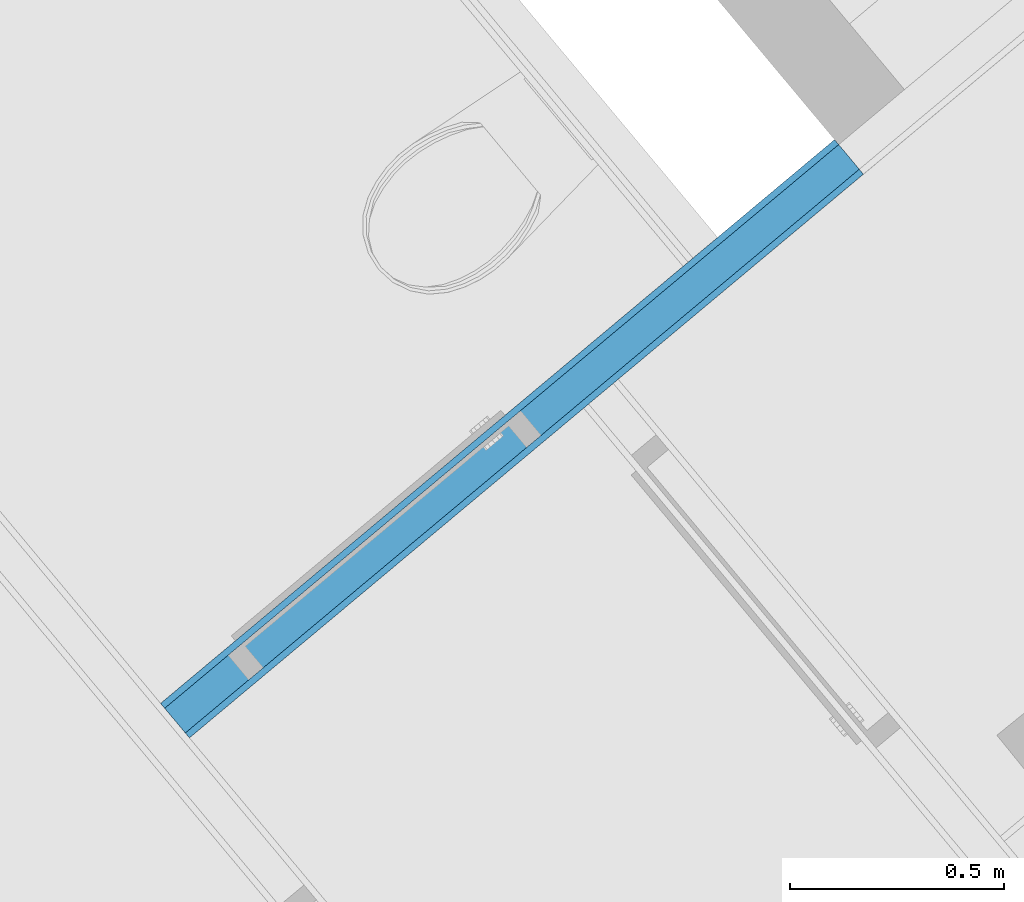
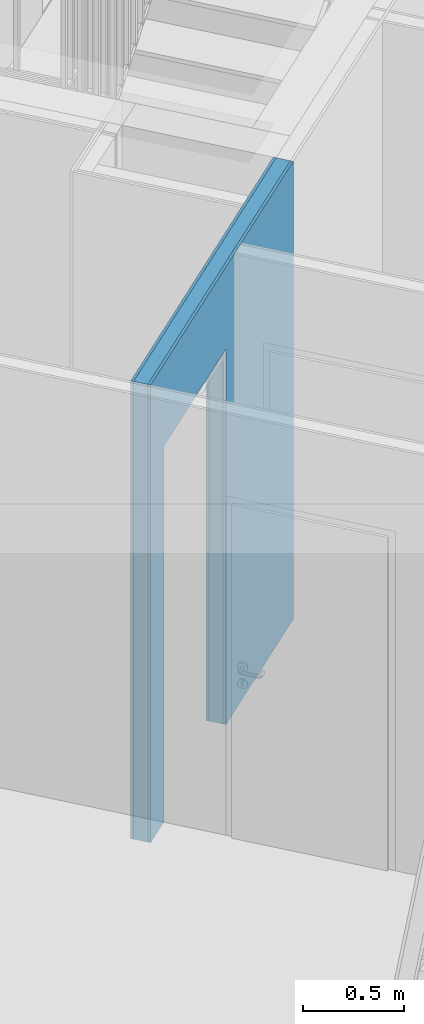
# One storey, part 4 of 50: 3 building element parts, 1 opening, 1 element without a shape of its own.
"""IFC4 building model written with IfcOpenShell, lengths in metres."""

from ifc_helpers import new_model, entity, si_unit, converted_unit, derived_unit, direction, frame, origin_with_axes, place, context, subcontext, project, spatial, polygons, material, type_object, element, aggregate, save


model = new_model("IFC4")

# Units and contexts
model_context = context("Model", 3, precision=1e-05, world=origin_with_axes(), true_north=direction((0.0, 1.0)))
body_context = subcontext(model_context, "Body", "Model", "MODEL_VIEW")
ifc_project = project(units=[si_unit("LENGTHUNIT", "METRE"), si_unit("AREAUNIT", "SQUARE_METRE"), si_unit("VOLUMEUNIT", "CUBIC_METRE"), converted_unit("PLANEANGLEUNIT", "DEGREE", entity("IfcPlaneAngleMeasure", 0.0174532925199), si_unit("PLANEANGLEUNIT", "RADIAN"), dimensions=[0, 0, 0, 0, 0, 0, 0]), converted_unit("TIMEUNIT", "Year", entity("IfcTimeMeasure", 31556926.0), si_unit("TIMEUNIT", "SECOND"), dimensions=[0, 0, 1, 0, 0, 0, 0]), si_unit("MASSUNIT", "GRAM", prefix="KILO"), si_unit("THERMODYNAMICTEMPERATUREUNIT", "DEGREE_CELSIUS"), si_unit("LUMINOUSINTENSITYUNIT", "LUMEN"), si_unit("ENERGYUNIT", "JOULE", prefix="MEGA"), derived_unit("THERMALCONDUCTANCEUNIT", [(si_unit("POWERUNIT", "WATT"), 1), (si_unit("LENGTHUNIT", "METRE"), -1), (si_unit("THERMODYNAMICTEMPERATUREUNIT", "KELVIN"), -1)]), derived_unit("SPECIFICHEATCAPACITYUNIT", [(si_unit("ENERGYUNIT", "JOULE"), 1), (si_unit("MASSUNIT", "GRAM", prefix="KILO"), -1), (si_unit("THERMODYNAMICTEMPERATUREUNIT", "KELVIN"), -1)]), derived_unit("MASSDENSITYUNIT", [(si_unit("MASSUNIT", "GRAM", prefix="KILO"), 1), (si_unit("VOLUMEUNIT", "CUBIC_METRE"), -1)])], contexts=[model_context])

# Site, building, storey
site_placement = place(None, frame((-0.00153261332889, -0.00661245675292, 0.0), z_axis=(0.0, 0.0, 1.0), x_axis=(1.0, 0.0, 0.0)))
site = spatial("IfcSite", under=ifc_project, at=site_placement, Name="Site", CompositionType="ELEMENT")
building_placement = place(site_placement, origin_with_axes())
building = spatial("IfcBuilding", under=site, at=building_placement, Name="Building", CompositionType="ELEMENT")
storey_placement = place(building_placement, frame((0.0, 0.0, 2.74), z_axis=(0.0, 0.0, 1.0), x_axis=(1.0, 0.0, 0.0)))
storey = spatial("IfcBuildingStorey", under=building, at=storey_placement, Name="OG1", CompositionType="ELEMENT", Elevation=2.74)

# Wall, opening, building element parts
wall_type = type_object("IfcWallType", Name="IW LB 01 Leichtbautrennwand einfach 10,5 cm 105", PredefinedType="NOTDEFINED")
wall_placement = place(storey_placement, frame((-3.8779013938, 18.9137265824, 0.0), z_axis=(0.0, 0.0, 1.0), x_axis=(0.767062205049, 0.641572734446, 0.0)))
wall = element("IfcWall", 1, at=wall_placement, inside=storey, type_object=wall_type, Name="Wand-012", PredefinedType="NOTDEFINED")
opening_placement = place(wall_placement, frame((0.742573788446, 0.0, 0.22), z_axis=(0.0, 0.0, 1.0), x_axis=(1.0, 0.0, 0.0)))
element("IfcOpeningElement", 2, at=opening_placement, cuts=wall, Name="Tür-016", context=body_context, identifier="Reference", shape_type="Tessellation", body=[
    polygons([(-0.445, -1.16650854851, 2.045), (-0.445, -1.16650854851, -0.22), (0.445, -1.16650854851, -0.22), (0.445, -1.16650854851, 2.045), (-0.445, 1.06150854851, 2.045), (-0.445, 1.06150854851, -0.22), (0.445, 1.06150854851, -0.22), (0.445, 1.06150854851, 2.045)], [[[1, 2, 3, 4]], [[5, 6, 2, 1]], [[6, 7, 3, 2]], [[7, 8, 4, 3]], [[8, 5, 1, 4]], [[7, 6, 5, 8]]], closed=True),
])
ifc_material_1 = material(Name="Gipskarton")
building_element_part_1_placement = place(wall_placement, origin_with_axes())
building_element_part_1 = element("IfcBuildingElementPart", 3, at=building_element_part_1_placement, material=ifc_material_1, Name="Gipskarton", PredefinedType="NOTDEFINED", context=body_context, shape_type="Tessellation", body=[
    polygons([(0.297573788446, -0.015, 0.22), (0.297573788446, -0.015, 2.265), (1.18757378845, -0.015, 2.265), (1.18757378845, -0.015, 0.22), (1.18757378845, -0.015, 0.0), (2.15495244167, -0.015, 0.0), (2.15495244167, -0.015, 2.76), (0.10499291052, -0.015, 2.76), (0.10499291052, -0.015, 0.0), (0.297573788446, -0.015, 0.0), (0.297573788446, 3.45460549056e-09, 0.22), (0.297573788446, -8.58950244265e-10, 2.265), (1.18757378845, -8.58946691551e-10, 2.265), (1.18757378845, -8.58950244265e-10, 0.22), (1.18757378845, -8.58950244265e-10, 0.0), (2.15495244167, 0.0, 0.0), (2.15495244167, 0.0, 2.76), (0.105000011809, 0.0, 2.76), (0.105000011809, 0.0, 0.0), (0.297573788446, 3.45460549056e-09, 0.0)], [[[1, 2, 3, 4, 5, 6, 7, 8, 9, 10]], [[2, 1, 11, 12]], [[3, 2, 12, 13]], [[4, 3, 13, 14]], [[4, 14, 15, 5]], [[15, 16, 6, 5]], [[7, 6, 16, 17]], [[7, 17, 18, 8]], [[8, 18, 19, 9]], [[10, 9, 19, 20]], [[11, 1, 10, 20]], [[12, 11, 20, 19, 18, 17, 16, 15, 14, 13]]], closed=True),
])
ifc_material_2 = material(Name="Mineralwolle weich")
building_element_part_2_placement = place(wall_placement, origin_with_axes())
building_element_part_2 = element("IfcBuildingElementPart", 4, at=building_element_part_2_placement, material=ifc_material_2, Name="Mineralwolle weich", PredefinedType="NOTDEFINED", context=body_context, shape_type="Tessellation", body=[
    polygons([(0.297573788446, -0.09, 0.22), (0.297573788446, -0.09, 2.265), (1.18757378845, -0.09, 2.265), (1.18757378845, -0.09, 0.22), (1.18757378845, -0.09, 0.0), (2.15495244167, -0.09, 0.0), (2.15495244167, -0.09, 2.76), (0.104957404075, -0.09, 2.76), (0.104957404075, -0.09, 0.0), (0.297573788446, -0.09, 0.0), (0.297573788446, -0.015, 0.22), (0.297573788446, -0.015, 2.265), (1.18757378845, -0.015, 2.265), (1.18757378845, -0.015, 0.22), (1.18757378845, -0.015, 0.0), (2.15495244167, -0.015, 0.0), (2.15495244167, -0.015, 2.76), (0.10499291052, -0.015, 2.76), (0.10499291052, -0.015, 0.0), (0.297573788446, -0.015, 0.0)], [[[1, 2, 3, 4, 5, 6, 7, 8, 9, 10]], [[2, 1, 11, 12]], [[3, 2, 12, 13]], [[4, 3, 13, 14]], [[4, 14, 15, 5]], [[15, 16, 6, 5]], [[7, 6, 16, 17]], [[7, 17, 18, 8]], [[8, 18, 19, 9]], [[10, 9, 19, 20]], [[11, 1, 10, 20]], [[12, 11, 20, 19, 18, 17, 16, 15, 14, 13]]], closed=True),
])
building_element_part_3_placement = place(wall_placement, origin_with_axes())
building_element_part_3 = element("IfcBuildingElementPart", 5, at=building_element_part_3_placement, material=ifc_material_1, Name="Gipskarton", PredefinedType="NOTDEFINED", context=body_context, shape_type="Tessellation", body=[
    polygons([(0.297573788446, -0.105, 0.22), (0.297573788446, -0.105, 2.265), (1.18757378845, -0.105, 2.265), (1.18757378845, -0.105, 0.22), (1.18757378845, -0.105, 0.0), (2.15495244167, -0.105, 0.0), (2.15495244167, -0.105, 2.76), (0.104950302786, -0.105, 2.76), (0.104950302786, -0.105, 0.0), (0.297573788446, -0.105, 0.0), (0.297573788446, -0.09, 0.22), (0.297573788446, -0.09, 2.265), (1.18757378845, -0.09, 2.265), (1.18757378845, -0.09, 0.22), (1.18757378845, -0.09, 0.0), (2.15495244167, -0.09, 0.0), (2.15495244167, -0.09, 2.76), (0.104957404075, -0.09, 2.76), (0.104957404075, -0.09, 0.0), (0.297573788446, -0.09, 0.0)], [[[1, 2, 3, 4, 5, 6, 7, 8, 9, 10]], [[2, 1, 11, 12]], [[3, 2, 12, 13]], [[4, 3, 13, 14]], [[4, 14, 15, 5]], [[15, 16, 6, 5]], [[7, 6, 16, 17]], [[7, 17, 18, 8]], [[8, 18, 19, 9]], [[10, 9, 19, 20]], [[11, 1, 10, 20]], [[12, 11, 20, 19, 18, 17, 16, 15, 14, 13]]], closed=True),
])
aggregate(wall, [building_element_part_1, building_element_part_2, building_element_part_3])

save(model, "model.ifc")
